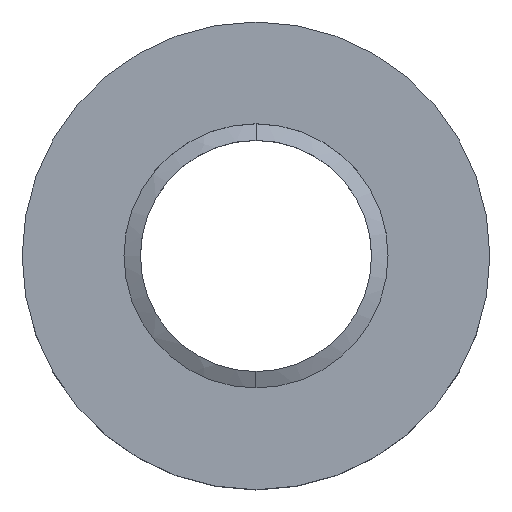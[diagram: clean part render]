
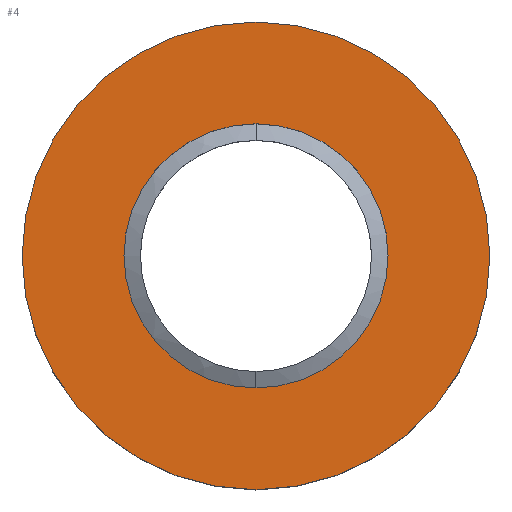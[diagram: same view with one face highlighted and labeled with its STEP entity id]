
A CAD part, top view. The second image highlights one B-rep face of the part: STEP entity #4.
In plain terms, the highlighted planar face has unit normal (0, 0, 1).
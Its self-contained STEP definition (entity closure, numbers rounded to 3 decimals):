
#4 = ADVANCED_FACE ( 'NONE', ( #110, #111 ), #112, .F. ) ;
#34 = ORIENTED_EDGE ( 'NONE', *, *, #350, .F. ) ;
#43 = VERTEX_POINT ( 'NONE', #390 ) ;
#68 = EDGE_LOOP ( 'NONE', ( #34, #221 ) ) ;
#70 = VERTEX_POINT ( 'NONE', #309 ) ;
#74 = VERTEX_POINT ( 'NONE', #341 ) ;
#75 = ORIENTED_EDGE ( 'NONE', *, *, #83, .T. ) ;
#76 = EDGE_LOOP ( 'NONE', ( #528, #75 ) ) ;
#83 = EDGE_CURVE ( 'NONE', #539, #43, #375, .T. ) ;
#110 = FACE_BOUND ( 'NONE', #68, .T. ) ;
#111 = FACE_OUTER_BOUND ( 'NONE', #76, .T. ) ;
#112 = PLANE ( 'NONE',  #113 ) ;
#113 = AXIS2_PLACEMENT_3D ( 'NONE', #114, #115, #116 ) ;
#114 = CARTESIAN_POINT ( 'NONE',  ( 0., 4.8, 0. ) ) ;
#115 = DIRECTION ( 'NONE',  ( 0., 0., -1. ) ) ;
#116 = DIRECTION ( 'NONE',  ( -1., 0., 0. ) ) ;
#180 = CIRCLE ( 'NONE', #181, 8.5 ) ;
#181 = AXIS2_PLACEMENT_3D ( 'NONE', #182, #183, #184 ) ;
#182 = CARTESIAN_POINT ( 'NONE',  ( 0., 0., 0. ) ) ;
#183 = DIRECTION ( 'NONE',  ( 0., 0., 1. ) ) ;
#184 = DIRECTION ( 'NONE',  ( 1., 0., 0. ) ) ;
#187 = EDGE_CURVE ( 'NONE', #43, #539, #180, .T. ) ;
#221 = ORIENTED_EDGE ( 'NONE', *, *, #385, .F. ) ;
#228 = CARTESIAN_POINT ( 'NONE',  ( -8.5, 0., 0. ) ) ;
#289 = CIRCLE ( 'NONE', #290, 4.8 ) ;
#290 = AXIS2_PLACEMENT_3D ( 'NONE', #291, #292, #297 ) ;
#291 = CARTESIAN_POINT ( 'NONE',  ( 0., 0., 0. ) ) ;
#292 = DIRECTION ( 'NONE',  ( 0., 0., 1. ) ) ;
#297 = DIRECTION ( 'NONE',  ( 1., 0., 0. ) ) ;
#303 = CIRCLE ( 'NONE', #304, 4.8 ) ;
#304 = AXIS2_PLACEMENT_3D ( 'NONE', #305, #306, #307 ) ;
#305 = CARTESIAN_POINT ( 'NONE',  ( 0., 0., 0. ) ) ;
#306 = DIRECTION ( 'NONE',  ( 0., 0., 1. ) ) ;
#307 = DIRECTION ( 'NONE',  ( 1., 0., 0. ) ) ;
#309 = CARTESIAN_POINT ( 'NONE',  ( 4.8, 0., 0. ) ) ;
#341 = CARTESIAN_POINT ( 'NONE',  ( -4.8, 0., 0. ) ) ;
#350 = EDGE_CURVE ( 'NONE', #70, #74, #289, .T. ) ;
#375 = CIRCLE ( 'NONE', #376, 8.5 ) ;
#376 = AXIS2_PLACEMENT_3D ( 'NONE', #377, #378, #379 ) ;
#377 = CARTESIAN_POINT ( 'NONE',  ( 0., 0., 0. ) ) ;
#378 = DIRECTION ( 'NONE',  ( 0., 0., 1. ) ) ;
#379 = DIRECTION ( 'NONE',  ( 1., 0., 0. ) ) ;
#385 = EDGE_CURVE ( 'NONE', #74, #70, #303, .T. ) ;
#390 = CARTESIAN_POINT ( 'NONE',  ( 8.5, 0., 0. ) ) ;
#528 = ORIENTED_EDGE ( 'NONE', *, *, #187, .T. ) ;
#539 = VERTEX_POINT ( 'NONE', #228 ) ;
